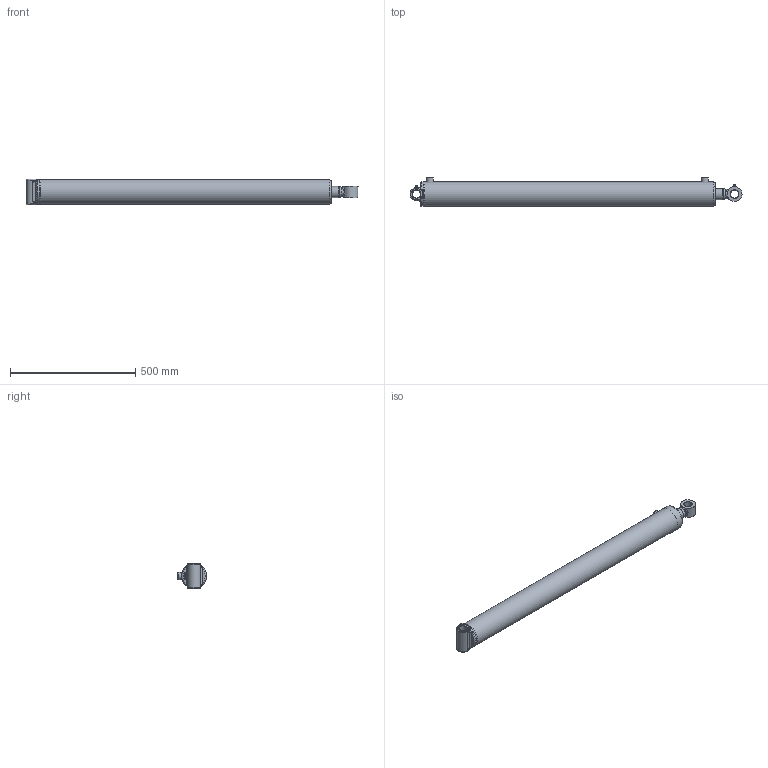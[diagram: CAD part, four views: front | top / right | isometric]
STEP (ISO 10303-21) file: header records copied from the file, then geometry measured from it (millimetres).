
FILE_DESCRIPTION(/* description */ ('Ø3.50 X 42.00 DA'),/* implementation_level */ '2;1');
FILE_NAME(/* name */ 'result.stp',/* time_stamp */ '2024-07-12T20:58:07Z',/* author */ ('AJC'),/* organization */ ('PRINCE MANUFACTURING'),/* preprocessor_version */ 'ST-DEVELOPER v20',/* originating_system */ 'Autodesk Inventor 2024',/* authorisation */ '');
FILE_SCHEMA (('AUTOMOTIVE_DESIGN { 1 0 10303 214 3 1 1 }'));
Length unit declared in the file: inch
Products named in the file (21): PC3542017A00-500XYXA; 0617-XYSF000-45570; 0517-T-45570; 161700179; 200015603; 06Weld1_C360; 0717-P-100; 220000210; 0817-G-175; 230025105; 230025005; 240000022; 240061338; 240000338; 0210A-HAW5-47687XA; 0110A-HAW5-47687; 210600529; 02Weld_C360; 240020007; 250014175; 270010020
Assembly tree (22 placements, depth 3):
  PC3542017A00-500XYXA
    0617-XYSF000-45570
      0517-T-45570
      161700179
      200015603  x2
      06Weld1_C360
    0717-P-100
    220000210
    0817-G-175
    230025105
    230025005
    240000022
    240061338
    240000338
    0210A-HAW5-47687XA
      0110A-HAW5-47687
      210600529
      02Weld_C360
    240020007
    250014175
    270010020  x2
Bounding box: 1325.52 x 116.74 x 101.6 mm (x, y, z)
Volume: 4128196.2 mm3; surface area: 1039799.6 mm2
Topology: 26 solids, 26 shells, 536 faces, 1281 edges, 823 vertices
Faces by surface type: plane 144, bspline 128, torus 89, cylinder 87, cone 84, sphere 4
Full cylindrical faces by diameter (mm): 2.143 x4, 3.175 x1, 5.359 x2, 6.35 x2, 9.525 x2, 12.649 x1, 12.7 x1, 12.725 x1, 17.323 x2, 23.444 x1, 25.349 x1, 25.476 x1, 27.965 x1, 28.575 x2, 32.131 x2, 44.45 x1, 44.526 x2, 45.644 x2, 46.482 x1, 46.838 x1, 51.613 x1, 52.807 x1, 54 x1, 55.626 x2, 57.15 x2, 61.976 x1, 69.85 x2, 79.477 x2, 80.213 x2, 83.82 x1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
Entity records: 29468 total; most frequent: CARTESIAN_POINT 17326, ORIENTED_EDGE 2352, DIRECTION 2142, EDGE_CURVE 1176, AXIS2_PLACEMENT_3D 908, VERTEX_POINT 762, EDGE_LOOP 572, FACE_OUTER_BOUND 492
